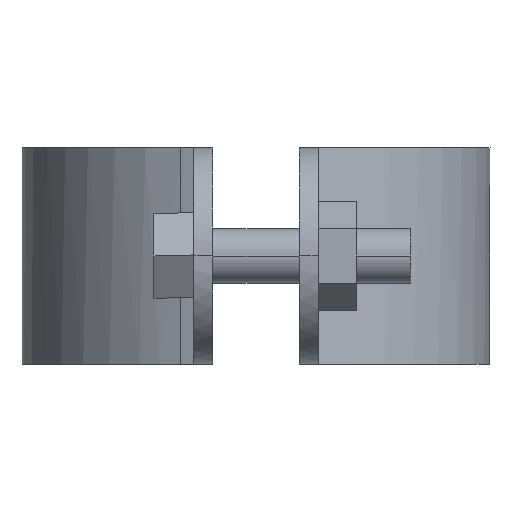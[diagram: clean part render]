
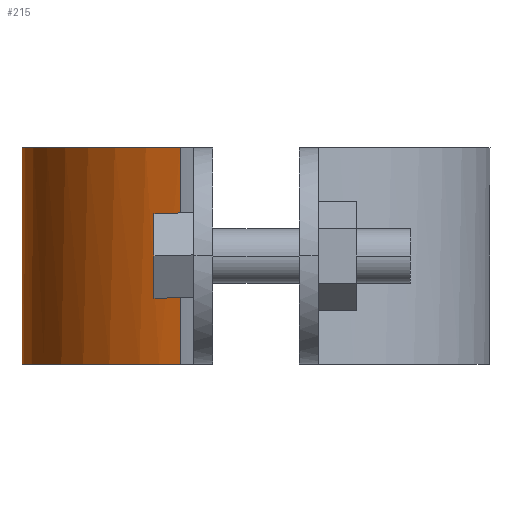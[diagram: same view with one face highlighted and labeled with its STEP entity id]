
A CAD part, left-side view. The second image highlights one B-rep face of the part: STEP entity #215.
In plain terms, the highlighted free-form (B-spline) face has degree [3, 1] with [4, 2] control points.
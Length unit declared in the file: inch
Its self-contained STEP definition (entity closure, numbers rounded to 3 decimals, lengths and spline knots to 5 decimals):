
#215=ADVANCED_FACE('',(#448),#449,.T.);
#448=FACE_OUTER_BOUND('',#823,.T.);
#449=B_SPLINE_SURFACE_WITH_KNOTS('',3,1,((#824,#825),(#826,#827),(#828,#829),(#830,#831)),.UNSPECIFIED.,.F.,.F.,.F.,(4,4),(2,2),(-1.0,-0.0),(0.0,1.25),.UNSPECIFIED.);
#823=EDGE_LOOP('',(#1366,#1367,#1368,#1369));
#824=CARTESIAN_POINT('',(2.42548,2.52039,0.0));
#825=CARTESIAN_POINT('',(2.42548,2.52039,1.25));
#826=CARTESIAN_POINT('',(1.71617,2.76804,0.0));
#827=CARTESIAN_POINT('',(1.71617,2.76804,1.25));
#828=CARTESIAN_POINT('',(0.94036,2.39377,0.0));
#829=CARTESIAN_POINT('',(0.94036,2.39377,1.25));
#830=CARTESIAN_POINT('',(0.69273,1.68443,0.0));
#831=CARTESIAN_POINT('',(0.69273,1.68443,1.25));
#1366=ORIENTED_EDGE('',*,*,#1980,.T.);
#1367=ORIENTED_EDGE('',*,*,#1981,.T.);
#1368=ORIENTED_EDGE('',*,*,#1982,.T.);
#1369=ORIENTED_EDGE('',*,*,#1983,.F.);
#1980=EDGE_CURVE('',#2373,#2374,#2375,.T.);
#1981=EDGE_CURVE('',#2374,#2376,#2377,.T.);
#1982=EDGE_CURVE('',#2376,#2378,#2379,.T.);
#1983=EDGE_CURVE('',#2373,#2378,#2380,.T.);
#2373=VERTEX_POINT('',#2951);
#2374=VERTEX_POINT('',#2952);
#2375=B_SPLINE_CURVE_WITH_KNOTS('',3,(#2953,#2954,#2955,#2956),.UNSPECIFIED.,.F.,.F.,(4,4),(-1.0,-0.0),.UNSPECIFIED.);
#2376=VERTEX_POINT('',#2957);
#2377=LINE('',#2958,#2959);
#2378=VERTEX_POINT('',#2960);
#2379=B_SPLINE_CURVE_WITH_KNOTS('',3,(#2961,#2962,#2963,#2964),.UNSPECIFIED.,.F.,.F.,(4,4),(0.0,1.0),.UNSPECIFIED.);
#2380=LINE('',#2965,#2966);
#2951=CARTESIAN_POINT('',(2.42548,2.52039,0.00009));
#2952=CARTESIAN_POINT('',(0.69273,1.68443,0.00009));
#2953=CARTESIAN_POINT('',(2.42548,2.52039,0.00009));
#2954=CARTESIAN_POINT('',(1.71617,2.76804,0.00009));
#2955=CARTESIAN_POINT('',(0.94036,2.39377,0.00009));
#2956=CARTESIAN_POINT('',(0.69273,1.68443,0.00009));
#2957=CARTESIAN_POINT('',(0.69273,1.68443,1.24989));
#2958=CARTESIAN_POINT('',(0.69273,1.68443,0.0));
#2959=VECTOR('',#3382,1.0);
#2960=CARTESIAN_POINT('',(2.42548,2.52039,1.24989));
#2961=CARTESIAN_POINT('',(0.69273,1.68443,1.24989));
#2962=CARTESIAN_POINT('',(0.94036,2.39377,1.24989));
#2963=CARTESIAN_POINT('',(1.71617,2.76804,1.24989));
#2964=CARTESIAN_POINT('',(2.42548,2.52039,1.24989));
#2965=CARTESIAN_POINT('',(2.42548,2.52039,0.0));
#2966=VECTOR('',#3383,1.0);
#3382=DIRECTION('',(0.0,0.0,1.0));
#3383=DIRECTION('',(0.0,0.0,1.0));
